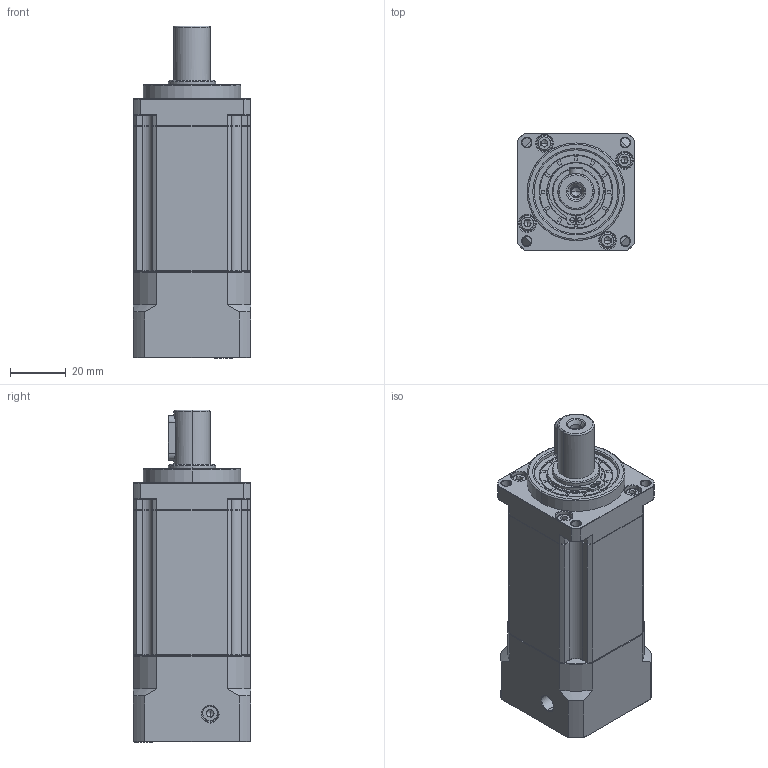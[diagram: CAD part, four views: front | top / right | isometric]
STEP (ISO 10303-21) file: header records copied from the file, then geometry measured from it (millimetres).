
FILE_DESCRIPTION (( 'STEP AP214' ), '1' );
FILE_NAME ('ZB042-D13-L3-P2-8-30-46-M4.STEP', '2023-08-15T11:58:58', ( '' ), ( '' ), 'SwSTEP 2.0', 'SolidWorks 2016', '' );
FILE_SCHEMA (( 'AUTOMOTIVE_DESIGN' ));
Length unit declared in the file: millimetre
Products named in the file (1): ZB042-D13-L3-P2-8-30-46-M4
Bounding box: 42 x 42 x 119 mm (x, y, z)
Volume: 147872.3 mm3; surface area: 31846.2 mm2
Topology: 6 solids, 6 shells, 2247 faces, 6024 edges, 3872 vertices
Faces by surface type: plane 1098, cylinder 417, bspline 409, cone 303, torus 20
Entity records: 121441 total; most frequent: CARTESIAN_POINT 44039, ORIENTED_EDGE 11988, DIRECTION 9268, EDGE_CURVE 5994, VERTEX_POINT 3872, VECTOR 3814, LINE 3814, AXIS2_PLACEMENT_3D 2727
